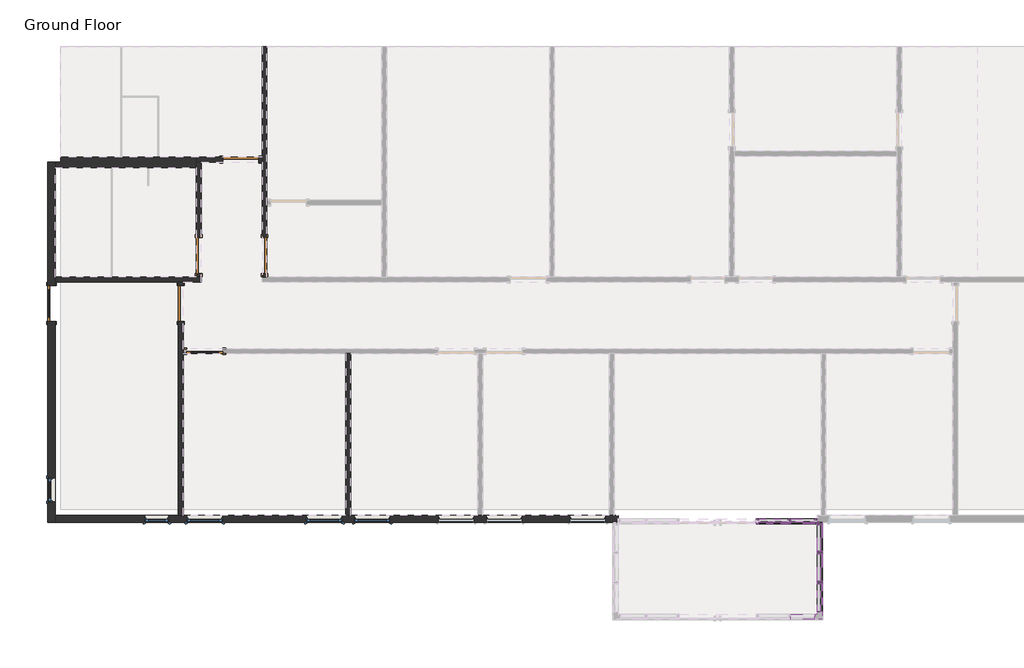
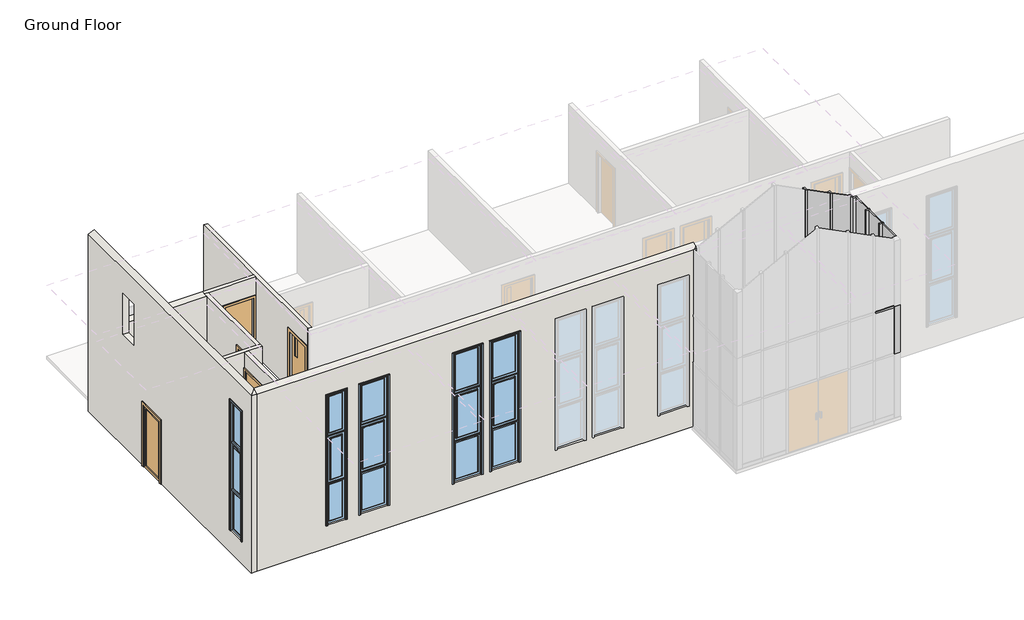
# One storey, part 2 of 3: 32 members, 15 plates, 9 walls, 6 doors, 5 windows.
"""IFC4 building model written with IfcOpenShell, lengths in millimetres."""

from ifc_helpers import new_model, si_unit, frame, origin, place, context, project, spatial, polyline, outline, extrude, faceted_brep, transform, mapped, element, save
from components import door_0f3f7c0c, door_43f271b1, door_8f6ecfa2, door_2a3d4b99, door_2264a989, door_30311ba1, member_07888544, member_4f1c84db, member_2ee2964b, member_c7c5a8a0, member_a43dcf29, member_eba58f5c, member_efd07658, member_b4c2ac5f, member_301edf08, member_3fbb5cd5, member_73a57e35, member_249e519d, member_cd2e279d, member_1aadb8e3, member_1526e78e, member_869738d0, member_f8dc38bf, member_798d6cad, member_3a7f528f, member_10cd6abd, member_1bc8ff6f, member_892852e1, member_0208a0fb, system_panel_0d1f19e3, system_panel_731fbf32, system_panel_system_panel_82d31de2, system_panel_system_panel_aed4df24, system_panel_system_panel_0f80bde9, system_panel_system_panel_0a04209b, system_panel_system_panel_237256c1, system_panel_system_panel_f8c05b70, system_panel_system_panel_3b0a3080, system_panel_system_panel_e46ad46d, system_panel_system_panel_25a6b319, system_panel_system_panel_5840f3b9, system_panel_system_panel_c9e3cbe4, system_panel_system_panel_14be3267, system_panel_system_panel_e406a2c2, window_8adb934c, window_fc414b9c

model = new_model("IFC4")

# Units and contexts
model_context = context("Model", 3, world=origin())
ifc_project = project(units=[si_unit("LENGTHUNIT", "METRE", prefix="MILLI")], contexts=[model_context])

# Site, building, storey
site = spatial("IfcSite", under=ifc_project)
building = spatial("IfcBuilding", under=site)
storey = spatial("IfcBuildingStorey", under=building, Name="Ground Floor", Elevation=39624.0)

# Doors
placement = place(None, origin())
door_shape = door_0f3f7c0c(model_context)
element("IfcDoor", 1, ObjectType="Single-Flush : 36\" x 80\"", at=placement, inside=storey, context=model_context, shape_type="MappedRepresentation", body=[
    mapped(door_shape, transform((-21988.4917336, -9250.4394844, 39624.0), x_axis=(0.0, -1.0, 0.0), y_axis=(1.0, 0.0, 0.0), z_axis=(0.0, 0.0, 1.0))),
])
door_2_shape = door_43f271b1(model_context)
element("IfcDoor", 2, ObjectType="Single-Flush : 36\" x 80\"", at=placement, inside=storey, context=model_context, shape_type="MappedRepresentation", body=[
    mapped(door_2_shape, transform((-20921.6917336, -6808.8644844, 39624.0), x_axis=(1.0, 0.0, 0.0), y_axis=(0.0, 1.0, 0.0), z_axis=(0.0, 0.0, 1.0))),
])
door_3_shape = door_8f6ecfa2(model_context)
element("IfcDoor", 3, ObjectType="Single-Flush Vision : 36\" x 80\"", at=placement, inside=storey, context=model_context, shape_type="MappedRepresentation", body=[
    mapped(door_3_shape, transform((-20312.0917336, -9250.4394844, 39624.0), x_axis=(0.0, -1.0, 0.0), y_axis=(1.0, 0.0, 0.0), z_axis=(0.0, 0.0, 1.0))),
])
door_4_shape = door_2a3d4b99(model_context)
element("IfcDoor", 4, ObjectType="Single-Flush Vision : 36\" x 84\"", at=placement, inside=storey, context=model_context, shape_type="MappedRepresentation", body=[
    mapped(door_4_shape, transform((-22445.6917336, -10469.6394844, 39624.0), x_axis=(0.0, 1.0, 0.0), y_axis=(-1.0, 0.0, 0.0), z_axis=(0.0, 0.0, 1.0))),
])
door_5_shape = door_2264a989(model_context)
element("IfcDoor", 5, ObjectType="Single-Glass 1 : 36\" x 84\"", at=placement, inside=storey, context=model_context, shape_type="MappedRepresentation", body=[
    mapped(door_5_shape, transform((-25736.5792336, -10469.6394844, 39624.0), x_axis=(0.0, 1.0, 0.0), y_axis=(-1.0, 0.0, 0.0), z_axis=(0.0, 0.0, 1.0))),
])
door_6_shape = door_30311ba1(model_context)
element("IfcDoor", 6, ObjectType="Single-Glass 1 : 36\" x 84\"", at=placement, inside=storey, context=model_context, shape_type="MappedRepresentation", body=[
    mapped(door_6_shape, transform((-21836.0917336, -11688.8394844, 39624.0), x_axis=(-1.0, 0.0, 0.0), y_axis=(0.0, -1.0, 0.0), z_axis=(0.0, 0.0, 1.0))),
])

# Members
member_shape = member_07888544(model_context)
element("IfcMember", 7, ObjectType="L Corner Mullion : 5\" x 5\" Corner", at=placement, inside=storey, context=model_context, shape_type="MappedRepresentation", body=[
    mapped(member_shape, transform((-6181.7542336, -18456.3519844, 43459.4), x_axis=(1.0, 0.0, 0.0), y_axis=(0.0, 1.0, 0.0), z_axis=(0.0, 0.0, 1.0))),
])
member_2_shape = member_4f1c84db(model_context)
element("IfcMember", 8, ObjectType="Rectangular Mullion : 2.5\" x 5\" rectangular", at=placement, inside=storey, context=model_context, shape_type="MappedRepresentation", body=[
    mapped(member_2_shape, transform((-6181.7542336, -16811.7019844, 39751.0), x_axis=(0.0, -1.0, 0.0), y_axis=(-1.0, 0.0, 0.0), z_axis=(0.0, 0.0, -1.0))),
])
element("IfcMember", 9, ObjectType="Rectangular Mullion : 2.5\" x 5\" rectangular", at=placement, inside=storey, context=model_context, shape_type="MappedRepresentation", body=[
    mapped(member_2_shape, transform((-6181.7542336, -17573.7019844, 39751.0), x_axis=(0.0, -1.0, 0.0), y_axis=(-1.0, 0.0, 0.0), z_axis=(0.0, 0.0, -1.0))),
])
member_3_shape = member_2ee2964b(model_context)
element("IfcMember", 10, ObjectType="Rectangular Mullion : 2.5\" x 5\" rectangular", at=placement, inside=storey, context=model_context, shape_type="MappedRepresentation", body=[
    mapped(member_3_shape, transform((-6181.7542336, -16779.9519844, 41821.1), x_axis=(0.0, 0.0, 1.0), y_axis=(-1.0, 0.0, 0.0), z_axis=(0.0, -1.0, 0.0))),
])
element("IfcMember", 11, ObjectType="Rectangular Mullion : 2.5\" x 5\" rectangular", at=placement, inside=storey, context=model_context, shape_type="MappedRepresentation", body=[
    mapped(member_3_shape, transform((-6181.7542336, -16779.9519844, 43459.4), x_axis=(0.0, 0.0, 1.0), y_axis=(-1.0, 0.0, 0.0), z_axis=(0.0, -1.0, 0.0))),
])
member_4_shape = member_c7c5a8a0(model_context)
element("IfcMember", 12, ObjectType="Rectangular Mullion : 2.5\" x 5\" rectangular", at=placement, inside=storey, context=model_context, shape_type="MappedRepresentation", body=[
    mapped(member_4_shape, transform((-6181.7542336, -17541.9519844, 41821.1), x_axis=(0.0, 0.0, 1.0), y_axis=(-1.0, 0.0, 0.0), z_axis=(0.0, -1.0, 0.0))),
])
element("IfcMember", 13, ObjectType="Rectangular Mullion : 2.5\" x 5\" rectangular", at=placement, inside=storey, context=model_context, shape_type="MappedRepresentation", body=[
    mapped(member_4_shape, transform((-6181.7542336, -17541.9519844, 43459.4), x_axis=(0.0, 0.0, 1.0), y_axis=(-1.0, 0.0, 0.0), z_axis=(0.0, -1.0, 0.0))),
])
member_5_shape = member_a43dcf29(model_context)
element("IfcMember", 14, ObjectType="Rectangular Mullion : 2.5\" x 5\" rectangular", at=placement, inside=storey, context=model_context, shape_type="MappedRepresentation", body=[
    mapped(member_5_shape, transform((-6181.7542336, -18329.3519844, 43459.4), x_axis=(0.0, 0.0, 1.0), y_axis=(-1.0, 0.0, 0.0), z_axis=(0.0, -1.0, 0.0))),
])
member_6_shape = member_eba58f5c(model_context)
element("IfcMember", 15, ObjectType="Rectangular Mullion : 2.5\" x 5\" rectangular", at=placement, inside=storey, context=model_context, shape_type="MappedRepresentation", body=[
    mapped(member_6_shape, transform((-6181.7542336, -16811.7019844, 41821.1), x_axis=(0.0, -1.0, 0.0), y_axis=(-1.0, 0.0, 0.0), z_axis=(0.0, 0.0, -1.0))),
])
element("IfcMember", 16, ObjectType="Rectangular Mullion : 2.5\" x 5\" rectangular", at=placement, inside=storey, context=model_context, shape_type="MappedRepresentation", body=[
    mapped(member_6_shape, transform((-6181.7542336, -17573.7019844, 41821.1), x_axis=(0.0, -1.0, 0.0), y_axis=(-1.0, 0.0, 0.0), z_axis=(0.0, 0.0, -1.0))),
])
member_7_shape = member_efd07658(model_context)
element("IfcMember", 17, ObjectType="Rectangular Mullion : 2.5\" x 5\" rectangular", at=placement, inside=storey, context=model_context, shape_type="MappedRepresentation", body=[
    mapped(member_7_shape, transform((-6181.7542336, -16811.7019844, 43459.4), x_axis=(0.0, -1.0, 0.0), y_axis=(-1.0, 0.0, 0.0), z_axis=(0.0, 0.0, -1.0))),
])
element("IfcMember", 18, ObjectType="Rectangular Mullion : 2.5\" x 5\" rectangular", at=placement, inside=storey, context=model_context, shape_type="MappedRepresentation", body=[
    mapped(member_7_shape, transform((-6181.7542336, -17573.7019844, 43459.4), x_axis=(0.0, -1.0, 0.0), y_axis=(-1.0, 0.0, 0.0), z_axis=(0.0, 0.0, -1.0))),
])
member_8_shape = member_b4c2ac5f(model_context)
element("IfcMember", 19, ObjectType="Rectangular Mullion : 2.5\" x 5\" rectangular", at=placement, inside=storey, context=model_context, shape_type="MappedRepresentation", body=[
    mapped(member_8_shape, transform((-6956.4542336, -16017.9519844, 43453.05), x_axis=(-1.0, 0.0, 0.0), y_axis=(0.0, 1.0, 0.0), z_axis=(0.0, 0.0, -1.0))),
])
member_9_shape = member_301edf08(model_context)
element("IfcMember", 20, ObjectType="Rectangular Mullion : 2.5\" x 5\" rectangular", at=placement, inside=storey, context=model_context, shape_type="MappedRepresentation", body=[
    mapped(member_9_shape, transform((-7769.2542336, -16017.9519844, 43453.05), x_axis=(-1.0, 0.0, 0.0), y_axis=(0.0, 1.0, 0.0), z_axis=(0.0, 0.0, -1.0))),
])
member_10_shape = member_3fbb5cd5(model_context)
element("IfcMember", 21, ObjectType="Rectangular Mullion : 2.5\" x 5\" rectangular", at=placement, inside=storey, context=model_context, shape_type="MappedRepresentation", body=[
    mapped(member_10_shape, transform((-6245.2542336, -16017.9519844, 45751.75), x_axis=(1.0, 0.0, 0.0), y_axis=(0.0, 1.0, 0.0), z_axis=(0.0, 0.0, 1.0))),
])
member_11_shape = member_73a57e35(model_context)
element("IfcMember", 22, ObjectType="Rectangular Mullion : 2.5\" x 5\" rectangular", at=placement, inside=storey, context=model_context, shape_type="MappedRepresentation", body=[
    mapped(member_11_shape, transform((-6245.2542336, -16017.9519844, 41821.1), x_axis=(1.0, 0.0, 0.0), y_axis=(0.0, 1.0, 0.0), z_axis=(0.0, 0.0, 1.0))),
])
element("IfcMember", 23, ObjectType="Rectangular Mullion : 2.5\" x 5\" rectangular", at=placement, inside=storey, context=model_context, shape_type="MappedRepresentation", body=[
    mapped(member_11_shape, transform((-6181.7542336, -16049.7019844, 41821.1), x_axis=(0.0, 1.0, 0.0), y_axis=(-1.0, 0.0, 0.0), z_axis=(0.0, 0.0, 1.0))),
])
member_12_shape = member_249e519d(model_context)
element("IfcMember", 24, ObjectType="Rectangular Mullion : 2.5\" x 5\" rectangular", at=placement, inside=storey, context=model_context, shape_type="MappedRepresentation", body=[
    mapped(member_12_shape, transform((-6245.2542336, -16017.9519844, 43453.05), x_axis=(1.0, 0.0, 0.0), y_axis=(0.0, 1.0, 0.0), z_axis=(0.0, 0.0, 1.0))),
])
member_13_shape = member_cd2e279d(model_context)
element("IfcMember", 25, ObjectType="Rectangular Mullion : 2.5\" x 5\" rectangular", at=placement, inside=storey, context=model_context, shape_type="MappedRepresentation", body=[
    mapped(member_13_shape, transform((-6181.7542336, -16049.7019844, 45720.0), x_axis=(0.0, 1.0, 0.0), y_axis=(-1.0, 0.0, 0.0), z_axis=(0.0, 0.0, 1.0))),
])
member_14_shape = member_1aadb8e3(model_context)
element("IfcMember", 26, ObjectType="Rectangular Mullion : 2.5\" x 5\" rectangular", at=placement, inside=storey, context=model_context, shape_type="MappedRepresentation", body=[
    mapped(member_14_shape, transform((-6181.7542336, -16049.7019844, 43459.4), x_axis=(0.0, 1.0, 0.0), y_axis=(-1.0, 0.0, 0.0), z_axis=(0.0, 0.0, 1.0))),
])
member_15_shape = member_1526e78e(model_context)
element("IfcMember", 27, ObjectType="Rectangular Mullion : 2.5\" x 5\" rectangular", at=placement, inside=storey, context=model_context, shape_type="MappedRepresentation", body=[
    mapped(member_15_shape, transform((-7769.2542336, -16017.9519844, 39624.0), x_axis=(-1.0, 0.0, 0.0), y_axis=(0.0, 1.0, 0.0), z_axis=(0.0, 0.0, -1.0))),
])
element("IfcMember", 28, ObjectType="Rectangular Mullion : 2.5\" x 5\" rectangular", at=placement, inside=storey, context=model_context, shape_type="MappedRepresentation", body=[
    mapped(member_15_shape, transform((-6956.4542336, -16017.9519844, 39624.0), x_axis=(-1.0, 0.0, 0.0), y_axis=(0.0, 1.0, 0.0), z_axis=(0.0, 0.0, -1.0))),
])
member_16_shape = member_869738d0(model_context)
element("IfcMember", 29, ObjectType="Rectangular Mullion : 2.5\" x 5\" rectangular", at=placement, inside=storey, context=model_context, shape_type="MappedRepresentation", body=[
    mapped(member_16_shape, transform((-7769.2542336, -16017.9519844, 41821.1), x_axis=(-1.0, 0.0, 0.0), y_axis=(0.0, 1.0, 0.0), z_axis=(0.0, 0.0, -1.0))),
])
element("IfcMember", 30, ObjectType="Rectangular Mullion : 2.5\" x 5\" rectangular", at=placement, inside=storey, context=model_context, shape_type="MappedRepresentation", body=[
    mapped(member_16_shape, transform((-6956.4542336, -16017.9519844, 41821.1), x_axis=(-1.0, 0.0, 0.0), y_axis=(0.0, 1.0, 0.0), z_axis=(0.0, 0.0, -1.0))),
])
member_17_shape = member_f8dc38bf(model_context)
element("IfcMember", 31, ObjectType="Rectangular Mullion : 2.5\" x 5\" rectangular", at=placement, inside=storey, context=model_context, shape_type="MappedRepresentation", body=[
    mapped(member_17_shape, transform((-6924.7042336, -16017.9519844, 41821.1), x_axis=(0.0, 0.0, 1.0), y_axis=(0.0, 1.0, 0.0), z_axis=(-1.0, 0.0, 0.0))),
])
element("IfcMember", 32, ObjectType="Rectangular Mullion : 2.5\" x 5\" rectangular", at=placement, inside=storey, context=model_context, shape_type="MappedRepresentation", body=[
    mapped(member_17_shape, transform((-6924.7042336, -18456.3519844, 43459.4), x_axis=(0.0, 0.0, 1.0), y_axis=(0.0, 1.0, 0.0), z_axis=(-1.0, 0.0, 0.0))),
])
member_18_shape = member_798d6cad(model_context)
element("IfcMember", 33, ObjectType="Rectangular Mullion : 2.5\" x 5\" rectangular", at=placement, inside=storey, context=model_context, shape_type="MappedRepresentation", body=[
    mapped(member_18_shape, transform((-7737.5042336, -16017.9519844, 41821.1), x_axis=(0.0, 0.0, 1.0), y_axis=(0.0, 1.0, 0.0), z_axis=(-1.0, 0.0, 0.0))),
])
member_19_shape = member_3a7f528f(model_context)
element("IfcMember", 34, ObjectType="Rectangular Mullion : 5\" x 5\" Rectangular", at=placement, inside=storey, context=model_context, shape_type="MappedRepresentation", body=[
    mapped(member_19_shape, transform((-6988.2042336, -16017.9519844, 39624.0), x_axis=(0.0, 0.0, -1.0), y_axis=(0.0, 1.0, 0.0), z_axis=(1.0, 0.0, 0.0))),
])
member_20_shape = member_10cd6abd(model_context)
element("IfcMember", 35, ObjectType="Rectangular Mullion : 5\" x 5\" Rectangular", at=placement, inside=storey, context=model_context, shape_type="MappedRepresentation", body=[
    mapped(member_20_shape, transform((-6308.7542336, -16017.9519844, 39624.0), x_axis=(0.0, 0.0, -1.0), y_axis=(0.0, 1.0, 0.0), z_axis=(1.0, 0.0, 0.0))),
])
member_21_shape = member_1bc8ff6f(model_context)
element("IfcMember", 36, ObjectType="Rectangular Mullion : 5\" x 5\" Rectangular", at=placement, inside=storey, context=model_context, shape_type="MappedRepresentation", body=[
    mapped(member_21_shape, transform((-6181.7542336, -16113.2019844, 39624.0), x_axis=(0.0, 0.0, -1.0), y_axis=(-1.0, 0.0, 0.0), z_axis=(0.0, 1.0, 0.0))),
])
member_22_shape = member_892852e1(model_context)
element("IfcMember", 37, ObjectType="Rectangular Mullion : 5\" x 5\" Rectangular", at=placement, inside=storey, context=model_context, shape_type="MappedRepresentation", body=[
    mapped(member_22_shape, transform((-6181.7542336, -16811.7019844, 39624.0), x_axis=(0.0, 0.0, -1.0), y_axis=(-1.0, 0.0, 0.0), z_axis=(0.0, 1.0, 0.0))),
])
member_23_shape = member_0208a0fb(model_context)
element("IfcMember", 38, ObjectType="Rectangular Mullion : 5\" x 5\" Rectangular", at=placement, inside=storey, context=model_context, shape_type="MappedRepresentation", body=[
    mapped(member_23_shape, transform((-6181.7542336, -17573.7019844, 39624.0), x_axis=(0.0, 0.0, -1.0), y_axis=(-1.0, 0.0, 0.0), z_axis=(0.0, 1.0, 0.0))),
])

# Plates
system_panel_shape = system_panel_0d1f19e3(model_context)
element("IfcPlate", 39, ObjectType="System Panel : Spandral Panel", at=placement, inside=storey, context=model_context, shape_type="MappedRepresentation", body=[
    mapped(system_panel_shape, transform((-6616.7292336, -16017.9519844, 41852.85), x_axis=(-1.0, 0.0, 0.0), y_axis=(0.0, -1.0, 0.0), z_axis=(0.0, 0.0, 1.0))),
])
system_panel_2_shape = system_panel_731fbf32(model_context)
element("IfcPlate", 40, ObjectType="System Panel : Spandral Panel", at=placement, inside=storey, context=model_context, shape_type="MappedRepresentation", body=[
    mapped(system_panel_2_shape, transform((-7362.8542336, -16017.9519844, 41852.85), x_axis=(-1.0, 0.0, 0.0), y_axis=(0.0, -1.0, 0.0), z_axis=(0.0, 0.0, 1.0))),
])
system_panel_system_panel_shape = system_panel_system_panel_82d31de2(model_context)
element("IfcPlate", 41, ObjectType="System Panel : System Panel", at=placement, inside=storey, context=model_context, shape_type="MappedRepresentation", body=[
    mapped(system_panel_system_panel_shape, transform((-6181.7542336, -16446.5769844, 39751.0), x_axis=(0.0, -1.0, 0.0), y_axis=(1.0, 0.0, 0.0), z_axis=(0.0, 0.0, 1.0))),
])
system_panel_system_panel_2_shape = system_panel_system_panel_aed4df24(model_context)
element("IfcPlate", 42, ObjectType="System Panel : System Panel", at=placement, inside=storey, context=model_context, shape_type="MappedRepresentation", body=[
    mapped(system_panel_system_panel_2_shape, transform((-6181.7542336, -17192.7019844, 39751.0), x_axis=(0.0, -1.0, 0.0), y_axis=(1.0, 0.0, 0.0), z_axis=(0.0, 0.0, 1.0))),
])
system_panel_system_panel_3_shape = system_panel_system_panel_0f80bde9(model_context)
element("IfcPlate", 43, ObjectType="System Panel : System Panel", at=placement, inside=storey, context=model_context, shape_type="MappedRepresentation", body=[
    mapped(system_panel_system_panel_3_shape, transform((-6181.7542336, -17967.4019844, 39751.0), x_axis=(0.0, -1.0, 0.0), y_axis=(1.0, 0.0, 0.0), z_axis=(0.0, 0.0, 1.0))),
])
system_panel_system_panel_4_shape = system_panel_system_panel_0a04209b(model_context)
element("IfcPlate", 44, ObjectType="System Panel : System Panel", at=placement, inside=storey, context=model_context, shape_type="MappedRepresentation", body=[
    mapped(system_panel_system_panel_4_shape, transform((-6181.7542336, -16446.5769844, 41852.85), x_axis=(0.0, -1.0, 0.0), y_axis=(1.0, 0.0, 0.0), z_axis=(0.0, 0.0, 1.0))),
])
system_panel_system_panel_5_shape = system_panel_system_panel_237256c1(model_context)
element("IfcPlate", 45, ObjectType="System Panel : System Panel", at=placement, inside=storey, context=model_context, shape_type="MappedRepresentation", body=[
    mapped(system_panel_system_panel_5_shape, transform((-6181.7542336, -16446.5769844, 43491.15), x_axis=(0.0, -1.0, 0.0), y_axis=(1.0, 0.0, 0.0), z_axis=(0.0, 0.0, 1.0))),
])
system_panel_system_panel_6_shape = system_panel_system_panel_f8c05b70(model_context)
element("IfcPlate", 46, ObjectType="System Panel : System Panel", at=placement, inside=storey, context=model_context, shape_type="MappedRepresentation", body=[
    mapped(system_panel_system_panel_6_shape, transform((-6181.7542336, -17192.7019844, 41852.85), x_axis=(0.0, -1.0, 0.0), y_axis=(1.0, 0.0, 0.0), z_axis=(0.0, 0.0, 1.0))),
])
system_panel_system_panel_7_shape = system_panel_system_panel_3b0a3080(model_context)
element("IfcPlate", 47, ObjectType="System Panel : System Panel", at=placement, inside=storey, context=model_context, shape_type="MappedRepresentation", body=[
    mapped(system_panel_system_panel_7_shape, transform((-6181.7542336, -17192.7019844, 43491.15), x_axis=(0.0, -1.0, 0.0), y_axis=(1.0, 0.0, 0.0), z_axis=(0.0, 0.0, 1.0))),
])
system_panel_system_panel_8_shape = system_panel_system_panel_e46ad46d(model_context)
element("IfcPlate", 48, ObjectType="System Panel : System Panel", at=placement, inside=storey, context=model_context, shape_type="MappedRepresentation", body=[
    mapped(system_panel_system_panel_8_shape, transform((-6181.7542336, -17967.4019844, 41852.85), x_axis=(0.0, -1.0, 0.0), y_axis=(1.0, 0.0, 0.0), z_axis=(0.0, 0.0, 1.0))),
])
system_panel_system_panel_9_shape = system_panel_system_panel_25a6b319(model_context)
element("IfcPlate", 49, ObjectType="System Panel : System Panel", at=placement, inside=storey, context=model_context, shape_type="MappedRepresentation", body=[
    mapped(system_panel_system_panel_9_shape, transform((-6181.7542336, -17967.4019844, 43491.15), x_axis=(0.0, -1.0, 0.0), y_axis=(1.0, 0.0, 0.0), z_axis=(0.0, 0.0, 1.0))),
])
system_panel_system_panel_10_shape = system_panel_system_panel_5840f3b9(model_context)
element("IfcPlate", 50, ObjectType="System Panel : System Panel", at=placement, inside=storey, context=model_context, shape_type="MappedRepresentation", body=[
    mapped(system_panel_system_panel_10_shape, transform((-7346.9792336, -16017.9519844, 43453.05), x_axis=(-1.0, 0.0, 0.0), y_axis=(0.0, -1.0, 0.0), z_axis=(0.0, 0.0, 1.0))),
])
system_panel_system_panel_11_shape = system_panel_system_panel_c9e3cbe4(model_context)
element("IfcPlate", 51, ObjectType="System Panel : System Panel", at=placement, inside=storey, context=model_context, shape_type="MappedRepresentation", body=[
    mapped(system_panel_system_panel_11_shape, transform((-6616.7292336, -16017.9519844, 43453.05), x_axis=(-1.0, 0.0, 0.0), y_axis=(0.0, -1.0, 0.0), z_axis=(0.0, 0.0, 1.0))),
])
system_panel_system_panel_12_shape = system_panel_system_panel_14be3267(model_context)
element("IfcPlate", 52, ObjectType="System Panel : System Panel", at=placement, inside=storey, context=model_context, shape_type="MappedRepresentation", body=[
    mapped(system_panel_system_panel_12_shape, transform((-6616.7292336, -16017.9519844, 39751.0), x_axis=(-1.0, 0.0, 0.0), y_axis=(0.0, -1.0, 0.0), z_axis=(0.0, 0.0, 1.0))),
])
system_panel_system_panel_13_shape = system_panel_system_panel_e406a2c2(model_context)
element("IfcPlate", 53, ObjectType="System Panel : System Panel", at=placement, inside=storey, context=model_context, shape_type="MappedRepresentation", body=[
    mapped(system_panel_system_panel_13_shape, transform((-7362.8542336, -16017.9519844, 39751.0), x_axis=(-1.0, 0.0, 0.0), y_axis=(0.0, -1.0, 0.0), z_axis=(0.0, 0.0, 1.0))),
])

# Walls
element("IfcWall", 54, ObjectType="Exterior - Siding", at=placement, inside=storey, context=model_context, shape_type="Brep", body=[
    faceted_brep([(-25642.9167336, -16049.7019844, 45720.0), (-25642.9167336, -16049.7019844, 39624.0), (-25642.9167336, -15862.3769844, 39624.0), (-25642.9167336, -10926.8394844, 39624.0), (-25642.9167336, -10926.8394844, 41757.6), (-25642.9167336, -10012.4394844, 41757.6), (-25642.9167336, -10012.4394844, 39624.0), (-25642.9167336, -9921.9519844, 39624.0), (-25642.9167336, -9798.1269844, 39624.0), (-25642.9167336, -7007.3019844, 39624.0), (-25642.9167336, -6877.1269844, 39624.0), (-25642.9167336, -6877.1269844, 42348.15), (-25642.9167336, -7007.3019844, 42348.15), (-25642.9167336, -9798.1269844, 42348.15), (-25642.9167336, -9921.9519844, 42348.15), (-25642.9167336, -12230.1769844, 42348.15), (-25642.9167336, -12230.1769844, 42672.0), (-25642.9167336, -9921.9519844, 42672.0), (-25642.9167336, -9798.1269844, 42672.0), (-25642.9167336, -7007.3019844, 42672.0), (-25642.9167336, -6877.1269844, 42672.0), (-25642.9167336, -6877.1269844, 45813.6625), (-25642.9167336, -15862.3769844, 45813.6625), (-25642.9167336, -14911.4644844, 44869.1), (-25642.9167336, -14911.4644844, 40405.05), (-25642.9167336, -15521.0644844, 40405.05), (-25642.9167336, -15521.0644844, 44869.1), (-25642.9167336, -8815.4644844, 44869.1), (-25642.9167336, -8815.4644844, 43453.05), (-25642.9167336, -9425.0644844, 43453.05), (-25642.9167336, -9425.0644844, 44869.1), (-25830.2417336, -16049.7019844, 45720.0), (-25830.2417336, -6877.1269844, 45720.0), (-25830.2417336, -6877.1269844, 42672.0), (-25830.2417336, -6877.1269844, 39624.0), (-25830.2417336, -10012.4394844, 39624.0), (-25830.2417336, -10012.4394844, 41757.6), (-25830.2417336, -10926.8394844, 41757.6), (-25830.2417336, -10926.8394844, 39624.0), (-25830.2417336, -16049.7019844, 39624.0), (-25830.2417336, -14911.4644844, 40405.05), (-25830.2417336, -14911.4644844, 44869.1), (-25830.2417336, -15521.0644844, 44869.1), (-25830.2417336, -15521.0644844, 40405.05), (-25830.2417336, -8815.4644844, 43453.05), (-25830.2417336, -8815.4644844, 44869.1), (-25830.2417336, -9425.0644844, 44869.1), (-25830.2417336, -9425.0644844, 43453.05), (-25798.4917336, -6877.1269844, 42672.0), (-25798.4917336, -6877.1269844, 42348.15), (-25798.4917336, -12230.1769844, 42348.15), (-25798.4917336, -12230.1769844, 42672.0)], [[[0, 1, 2, 3, 4, 5, 6, 7, 8, 9, 10, 11, 12, 13, 14, 15, 16, 17, 18, 19, 20, 21, 22], [23, 24, 25, 26], [27, 28, 29, 30]], [[31, 32, 33, 34, 35, 36, 37, 38, 39], [40, 41, 42, 43], [44, 45, 46, 47]], [[34, 10, 9, 8, 7, 6, 35]], [[1, 39, 38, 3, 2]], [[1, 0, 31, 39]], [[24, 23, 41, 40]], [[25, 24, 40, 43]], [[26, 25, 43, 42]], [[23, 26, 42, 41]], [[36, 35, 6, 5]], [[37, 36, 5, 4]], [[38, 37, 4, 3]], [[28, 27, 45, 44]], [[29, 28, 44, 47]], [[30, 29, 47, 46]], [[27, 30, 46, 45]], [[10, 34, 33, 32, 21, 20, 48, 49, 11]], [[31, 0, 22]], [[32, 31, 22, 21]], [[49, 50, 15, 14, 13, 12, 11]], [[51, 48, 20, 19, 18, 17, 16]], [[50, 51, 16, 15]], [[50, 49, 48, 51]]]),
])
element("IfcWall", 55, ObjectType="Exterior - Siding", at=placement, inside=storey, context=model_context, shape_type="Brep", body=[
    faceted_brep([(-11315.7292336, -15862.3769844, 39624.0), (-11410.9792336, -15862.3769844, 39624.0), (-11534.8042336, -15862.3769844, 39624.0), (-14763.7792336, -15862.3769844, 39624.0), (-14887.6042336, -15862.3769844, 39624.0), (-18116.5792336, -15862.3769844, 39624.0), (-18240.4042336, -15862.3769844, 39624.0), (-22383.7792336, -15862.3769844, 39624.0), (-22507.6042336, -15862.3769844, 39624.0), (-25642.9167336, -15862.3769844, 39624.0), (-25642.9167336, -15862.3769844, 45813.6625), (-11315.7292336, -15862.3769844, 45813.6625), (-11315.7292336, -15862.3769844, 42672.0), (-11410.9792336, -15862.3769844, 42672.0), (-11534.8042336, -15862.3769844, 42672.0), (-11625.2917336, -15862.3769844, 42672.0), (-11625.2917336, -15862.3769844, 44869.1), (-12539.6917336, -15862.3769844, 44869.1), (-12539.6917336, -15862.3769844, 42672.0), (-13758.8917336, -15862.3769844, 42672.0), (-13758.8917336, -15862.3769844, 44869.1), (-14673.2917336, -15862.3769844, 44869.1), (-14673.2917336, -15862.3769844, 42672.0), (-14695.5167336, -15862.3769844, 42672.0), (-14955.8667336, -15862.3769844, 42672.0), (-14978.0917336, -15862.3769844, 42672.0), (-14978.0917336, -15862.3769844, 44869.1), (-15892.4917336, -15862.3769844, 44869.1), (-15892.4917336, -15862.3769844, 42672.0), (-17111.6917336, -15862.3769844, 42672.0), (-17111.6917336, -15862.3769844, 44869.1), (-18026.0917336, -15862.3769844, 44869.1), (-18026.0917336, -15862.3769844, 42672.0), (-18330.8917336, -15862.3769844, 42672.0), (-18330.8917336, -15862.3769844, 44869.1), (-19245.2917336, -15862.3769844, 44869.1), (-19245.2917336, -15862.3769844, 42672.0), (-21378.8917336, -15862.3769844, 42672.0), (-21378.8917336, -15862.3769844, 44869.1), (-22293.2917336, -15862.3769844, 44869.1), (-22293.2917336, -15862.3769844, 42672.0), (-22383.7792336, -15862.3769844, 42672.0), (-22507.6042336, -15862.3769844, 42672.0), (-22507.6042336, -15862.3769844, 42348.15), (-22383.7792336, -15862.3769844, 42348.15), (-22293.2917336, -15862.3769844, 42348.15), (-22293.2917336, -15862.3769844, 40405.05), (-21378.8917336, -15862.3769844, 40405.05), (-21378.8917336, -15862.3769844, 42348.15), (-19245.2917336, -15862.3769844, 42348.15), (-19245.2917336, -15862.3769844, 40405.05), (-18330.8917336, -15862.3769844, 40405.05), (-18330.8917336, -15862.3769844, 42348.15), (-18240.4042336, -15862.3769844, 42348.15), (-18116.5792336, -15862.3769844, 42348.15), (-18026.0917336, -15862.3769844, 42348.15), (-18026.0917336, -15862.3769844, 40405.05), (-17111.6917336, -15862.3769844, 40405.05), (-17111.6917336, -15862.3769844, 42348.15), (-15892.4917336, -15862.3769844, 42348.15), (-15892.4917336, -15862.3769844, 40405.05), (-14978.0917336, -15862.3769844, 40405.05), (-14978.0917336, -15862.3769844, 42348.15), (-14887.6042336, -15862.3769844, 42348.15), (-14763.7792336, -15862.3769844, 42348.15), (-14673.2917336, -15862.3769844, 42348.15), (-14673.2917336, -15862.3769844, 40405.05), (-13758.8917336, -15862.3769844, 40405.05), (-13758.8917336, -15862.3769844, 42348.15), (-12539.6917336, -15862.3769844, 42348.15), (-12539.6917336, -15862.3769844, 40405.05), (-11625.2917336, -15862.3769844, 40405.05), (-11625.2917336, -15862.3769844, 42348.15), (-11534.8042336, -15862.3769844, 42348.15), (-11410.9792336, -15862.3769844, 42348.15), (-11315.7292336, -15862.3769844, 42348.15), (-22750.4917336, -15862.3769844, 44869.1), (-23360.0917336, -15862.3769844, 44869.1), (-23360.0917336, -15862.3769844, 40405.05), (-22750.4917336, -15862.3769844, 40405.05), (-25642.9167336, -16049.7019844, 39624.0), (-11315.7292336, -16049.7019844, 39624.0), (-11315.7292336, -16049.7019844, 45751.75), (-11379.2292336, -16049.7019844, 45720.0), (-25642.9167336, -16049.7019844, 45720.0), (-23360.0917336, -16049.7019844, 44869.1), (-22750.4917336, -16049.7019844, 44869.1), (-22750.4917336, -16049.7019844, 40405.05), (-23360.0917336, -16049.7019844, 40405.05), (-22293.2917336, -16049.7019844, 44869.1), (-21378.8917336, -16049.7019844, 44869.1), (-21378.8917336, -16049.7019844, 40405.05), (-22293.2917336, -16049.7019844, 40405.05), (-19245.2917336, -16049.7019844, 44869.1), (-18330.8917336, -16049.7019844, 44869.1), (-18330.8917336, -16049.7019844, 40405.05), (-19245.2917336, -16049.7019844, 40405.05), (-15892.4917336, -16049.7019844, 44869.1), (-14978.0917336, -16049.7019844, 44869.1), (-14978.0917336, -16049.7019844, 40405.05), (-15892.4917336, -16049.7019844, 40405.05), (-12539.6917336, -16049.7019844, 44869.1), (-11625.2917336, -16049.7019844, 44869.1), (-11625.2917336, -16049.7019844, 40405.05), (-12539.6917336, -16049.7019844, 40405.05), (-18026.0917336, -16049.7019844, 44869.1), (-17111.6917336, -16049.7019844, 44869.1), (-17111.6917336, -16049.7019844, 40405.05), (-18026.0917336, -16049.7019844, 40405.05), (-14673.2917336, -16049.7019844, 44869.1), (-13758.8917336, -16049.7019844, 44869.1), (-13758.8917336, -16049.7019844, 40405.05), (-14673.2917336, -16049.7019844, 40405.05), (-11315.7292336, -16017.9519844, 42348.15), (-11315.7292336, -16017.9519844, 42672.0), (-11315.7292336, -15986.2019844, 45751.75), (-21378.8917336, -16017.9519844, 42672.0), (-21378.8917336, -16017.9519844, 42348.15), (-22293.2917336, -16017.9519844, 42348.15), (-22293.2917336, -16017.9519844, 42672.0), (-18330.8917336, -16017.9519844, 42672.0), (-18330.8917336, -16017.9519844, 42348.15), (-19245.2917336, -16017.9519844, 42348.15), (-19245.2917336, -16017.9519844, 42672.0), (-14978.0917336, -16017.9519844, 42672.0), (-14978.0917336, -16017.9519844, 42348.15), (-15892.4917336, -16017.9519844, 42348.15), (-15892.4917336, -16017.9519844, 42672.0), (-11625.2917336, -16017.9519844, 42672.0), (-11625.2917336, -16017.9519844, 42348.15), (-12539.6917336, -16017.9519844, 42348.15), (-12539.6917336, -16017.9519844, 42672.0), (-17111.6917336, -16017.9519844, 42672.0), (-17111.6917336, -16017.9519844, 42348.15), (-18026.0917336, -16017.9519844, 42348.15), (-18026.0917336, -16017.9519844, 42672.0), (-13758.8917336, -16017.9519844, 42672.0), (-13758.8917336, -16017.9519844, 42348.15), (-14673.2917336, -16017.9519844, 42348.15), (-14673.2917336, -16017.9519844, 42672.0), (-22507.6042336, -16017.9519844, 42348.15), (-22507.6042336, -16017.9519844, 42672.0)], [[[0, 1, 2, 3, 4, 5, 6, 7, 8, 9, 10, 11, 12, 13, 14, 15, 16, 17, 18, 19, 20, 21, 22, 23, 24, 25, 26, 27, 28, 29, 30, 31, 32, 33, 34, 35, 36, 37, 38, 39, 40, 41, 42, 43, 44, 45, 46, 47, 48, 49, 50, 51, 52, 53, 54, 55, 56, 57, 58, 59, 60, 61, 62, 63, 64, 65, 66, 67, 68, 69, 70, 71, 72, 73, 74, 75], [76, 77, 78, 79]], [[80, 81, 82, 83, 84], [85, 86, 87, 88], [89, 90, 91, 92], [93, 94, 95, 96], [97, 98, 99, 100], [101, 102, 103, 104], [105, 106, 107, 108], [109, 110, 111, 112]], [[9, 8, 7, 6, 5, 4, 3, 2, 1, 0, 81, 80]], [[82, 81, 0, 75, 113, 114, 12, 11, 115]], [[10, 9, 80, 84]], [[77, 76, 86, 85]], [[76, 79, 87, 86]], [[79, 78, 88, 87]], [[78, 77, 85, 88]], [[39, 38, 90, 89]], [[91, 90, 38, 37, 116, 117, 48, 47]], [[47, 46, 92, 91]], [[89, 92, 46, 45, 118, 119, 40, 39]], [[35, 34, 94, 93]], [[95, 94, 34, 33, 120, 121, 52, 51]], [[51, 50, 96, 95]], [[93, 96, 50, 49, 122, 123, 36, 35]], [[27, 26, 98, 97]], [[99, 98, 26, 25, 124, 125, 62, 61]], [[61, 60, 100, 99]], [[97, 100, 60, 59, 126, 127, 28, 27]], [[17, 16, 102, 101]], [[103, 102, 16, 15, 128, 129, 72, 71]], [[71, 70, 104, 103]], [[101, 104, 70, 69, 130, 131, 18, 17]], [[31, 30, 106, 105]], [[107, 106, 30, 29, 132, 133, 58, 57]], [[57, 56, 108, 107]], [[105, 108, 56, 55, 134, 135, 32, 31]], [[21, 20, 110, 109]], [[111, 110, 20, 19, 136, 137, 68, 67]], [[67, 66, 112, 111]], [[109, 112, 66, 65, 138, 139, 22, 21]], [[11, 10, 84, 83, 115]], [[83, 82, 115]], [[43, 140, 118, 45, 44]], [[117, 122, 49, 48]], [[129, 113, 75, 74, 73, 72]], [[133, 126, 59, 58]], [[121, 134, 55, 54, 53, 52]], [[137, 130, 69, 68]], [[125, 138, 65, 64, 63, 62]], [[119, 141, 42, 41, 40]], [[123, 116, 37, 36]], [[114, 128, 15, 14, 13, 12]], [[127, 132, 29, 28]], [[135, 120, 33, 32]], [[131, 136, 19, 18]], [[139, 124, 25, 24, 23, 22]], [[140, 141, 119, 118]], [[122, 117, 116, 123]], [[113, 129, 128, 114]], [[126, 133, 132, 127]], [[134, 121, 120, 135]], [[130, 137, 136, 131]], [[138, 125, 124, 139]], [[141, 140, 43, 42]]]),
])
element("IfcWall", 56, ObjectType="Interior - 4 7/8\" Partition (1-hr)", at=placement, inside=storey, context=model_context, shape_type="Brep", body=[
    faceted_brep([(-25642.9167336, -9921.9519844, 39624.0), (-22507.6042336, -9921.9519844, 39624.0), (-22383.7792336, -9921.9519844, 39624.0), (-21926.5792336, -9921.9519844, 39624.0), (-21926.5792336, -9921.9519844, 42348.15), (-22383.7792336, -9921.9519844, 42348.15), (-22507.6042336, -9921.9519844, 42348.15), (-25642.9167336, -9921.9519844, 42348.15), (-25642.9167336, -9798.1269844, 39624.0), (-25642.9167336, -9798.1269844, 42348.15), (-22050.4042336, -9798.1269844, 42348.15), (-21926.5792336, -9798.1269844, 42348.15), (-21926.5792336, -9798.1269844, 39624.0), (-22050.4042336, -9798.1269844, 39624.0)], [[[0, 1, 2, 3, 4, 5, 6, 7]], [[8, 9, 10, 11, 12, 13]], [[3, 2, 1, 0, 8, 13, 12]], [[0, 7, 9, 8]], [[4, 3, 12, 11]], [[7, 6, 5, 4, 11, 10, 9]]]),
])
element("IfcWall", 57, ObjectType="Interior - 4 7/8\" Partition (1-hr)", at=placement, inside=storey, context=model_context, shape_type="Brep", body=[
    faceted_brep([(-22383.7792336, -10012.4394844, 41757.6), (-22383.7792336, -10012.4394844, 39624.0), (-22383.7792336, -9921.9519844, 39624.0), (-22383.7792336, -9921.9519844, 42348.15), (-22383.7792336, -11626.9269844, 42348.15), (-22383.7792336, -11750.7519844, 42348.15), (-22383.7792336, -15862.3769844, 42348.15), (-22383.7792336, -15862.3769844, 39624.0), (-22383.7792336, -11750.7519844, 39624.0), (-22383.7792336, -11626.9269844, 39624.0), (-22383.7792336, -10926.8394844, 39624.0), (-22383.7792336, -10926.8394844, 41757.6), (-22507.6042336, -9921.9519844, 39624.0), (-22507.6042336, -10012.4394844, 39624.0), (-22507.6042336, -10012.4394844, 41757.6), (-22507.6042336, -10926.8394844, 41757.6), (-22507.6042336, -10926.8394844, 39624.0), (-22507.6042336, -15862.3769844, 39624.0), (-22507.6042336, -15862.3769844, 42348.15), (-22507.6042336, -12230.1769844, 42348.15), (-22507.6042336, -9921.9519844, 42348.15)], [[[0, 1, 2, 3, 4, 5, 6, 7, 8, 9, 10, 11]], [[12, 13, 14, 15, 16, 17, 18, 19, 20]], [[2, 1, 13, 12]], [[10, 9, 8, 7, 17, 16]], [[7, 6, 18, 17]], [[3, 2, 12, 20]], [[6, 5, 4, 3, 20, 19, 18]], [[14, 13, 1, 0]], [[15, 14, 0, 11]], [[16, 15, 11, 10]]]),
])
element("IfcWall", 58, ObjectType="Interior - 4 7/8\" Partition (1-hr)", at=placement, inside=storey, context=model_context, shape_type="SweptSolid", body=[
    extrude(outline(polyline([(-18116.5792336, -11750.7519844), (-18116.5792336, -15862.3769844), (-18240.4042336, -15862.3769844), (-18240.4042336, -11750.7519844), (-18116.5792336, -11750.7519844)])), frame((0.0, 0.0, 39624.0), z_axis=(0.0, 0.0, 1.0), x_axis=(1.0, 0.0, 0.0)), (0.0, 0.0, 1.0), 2724.15),
])
element("IfcWall", 59, ObjectType="Interior - 4 7/8\" Partition (1-hr)", at=placement, inside=storey, context=model_context, shape_type="Brep", body=[
    faceted_brep([(-20374.0042336, -9707.6394844, 41656.0), (-20374.0042336, -9707.6394844, 39624.0), (-20374.0042336, -9798.1269844, 39624.0), (-20374.0042336, -9798.1269844, 42348.15), (-20374.0042336, -6870.7769844, 42348.15), (-20374.0042336, -6746.9519844, 42348.15), (-20374.0042336, -3927.5519844, 42348.15), (-20374.0042336, -3927.5519844, 39624.0), (-20374.0042336, -6746.9519844, 39624.0), (-20374.0042336, -6870.7769844, 39624.0), (-20374.0042336, -8793.2394844, 39624.0), (-20374.0042336, -8793.2394844, 41656.0), (-20250.1792336, -9798.1269844, 39624.0), (-20250.1792336, -9707.6394844, 39624.0), (-20250.1792336, -9707.6394844, 41656.0), (-20250.1792336, -8793.2394844, 41656.0), (-20250.1792336, -8793.2394844, 39624.0), (-20250.1792336, -7966.1519844, 39624.0), (-20250.1792336, -7842.3269844, 39624.0), (-20250.1792336, -3927.5519844, 39624.0), (-20250.1792336, -3927.5519844, 42348.15), (-20250.1792336, -7842.3269844, 42348.15), (-20250.1792336, -7966.1519844, 42348.15), (-20250.1792336, -9798.1269844, 42348.15)], [[[0, 1, 2, 3, 4, 5, 6, 7, 8, 9, 10, 11]], [[12, 13, 14, 15, 16, 17, 18, 19, 20, 21, 22, 23]], [[2, 1, 13, 12]], [[10, 9, 8, 7, 19, 18, 17, 16]], [[7, 6, 20, 19]], [[3, 2, 12, 23]], [[6, 5, 4, 3, 23, 22, 21, 20]], [[14, 13, 1, 0]], [[15, 14, 0, 11]], [[16, 15, 11, 10]]]),
])
element("IfcWall", 60, ObjectType="Interior - 4 7/8\" Partition (1-hr)", at=placement, inside=storey, context=model_context, shape_type="Brep", body=[
    faceted_brep([(-22050.4042336, -9707.6394844, 41656.0), (-22050.4042336, -9707.6394844, 39624.0), (-22050.4042336, -9798.1269844, 39624.0), (-22050.4042336, -9798.1269844, 42348.15), (-22050.4042336, -7007.3019844, 42348.15), (-22050.4042336, -6870.7769844, 42348.15), (-22050.4042336, -6870.7769844, 39624.0), (-22050.4042336, -7007.3019844, 39624.0), (-22050.4042336, -8793.2394844, 39624.0), (-22050.4042336, -8793.2394844, 41656.0), (-21926.5792336, -9798.1269844, 39624.0), (-21926.5792336, -9707.6394844, 39624.0), (-21926.5792336, -9707.6394844, 41656.0), (-21926.5792336, -8793.2394844, 41656.0), (-21926.5792336, -8793.2394844, 39624.0), (-21926.5792336, -6870.7769844, 39624.0), (-21926.5792336, -6870.7769844, 42348.15), (-21926.5792336, -9798.1269844, 42348.15)], [[[0, 1, 2, 3, 4, 5, 6, 7, 8, 9]], [[10, 11, 12, 13, 14, 15, 16, 17]], [[2, 1, 11, 10]], [[8, 7, 6, 15, 14]], [[3, 2, 10, 17]], [[6, 5, 16, 15]], [[5, 4, 3, 17, 16]], [[12, 11, 1, 0]], [[13, 12, 0, 9]], [[14, 13, 9, 8]]]),
])
element("IfcWall", 61, ObjectType="Interior - 4 7/8\" Partition (1-hr)", at=placement, inside=storey, context=model_context, shape_type="Brep", body=[
    faceted_brep([(-20464.4917336, -6870.7769844, 41656.0), (-20464.4917336, -6870.7769844, 39624.0), (-20374.0042336, -6870.7769844, 39624.0), (-20374.0042336, -6870.7769844, 42348.15), (-21926.5792336, -6870.7769844, 42348.15), (-22050.4042336, -6870.7769844, 42348.15), (-22050.4042336, -6870.7769844, 39624.0), (-21926.5792336, -6870.7769844, 39624.0), (-21378.8917336, -6870.7769844, 39624.0), (-21378.8917336, -6870.7769844, 41656.0), (-20374.0042336, -6746.9519844, 39624.0), (-20464.4917336, -6746.9519844, 39624.0), (-20464.4917336, -6746.9519844, 41656.0), (-21378.8917336, -6746.9519844, 41656.0), (-21378.8917336, -6746.9519844, 39624.0), (-22050.4042336, -6746.9519844, 39624.0), (-22050.4042336, -6746.9519844, 42348.15), (-20374.0042336, -6746.9519844, 42348.15)], [[[0, 1, 2, 3, 4, 5, 6, 7, 8, 9]], [[10, 11, 12, 13, 14, 15, 16, 17]], [[2, 1, 11, 10]], [[8, 7, 6, 15, 14]], [[6, 5, 16, 15]], [[3, 2, 10, 17]], [[5, 4, 3, 17, 16]], [[12, 11, 1, 0]], [[13, 12, 0, 9]], [[14, 13, 9, 8]]]),
])
element("IfcWall", 62, ObjectType="Interior - Plumbing Chase", at=placement, inside=storey, context=model_context, shape_type="Brep", body=[
    faceted_brep([(-25642.9167336, -7007.3019844, 39624.0), (-22050.4042336, -7007.3019844, 39624.0), (-22050.4042336, -7007.3019844, 42348.15), (-25642.9167336, -7007.3019844, 42348.15), (-25493.6917336, -6746.9519844, 39624.0), (-25493.6917336, -6746.9519844, 42348.15), (-22050.4042336, -6746.9519844, 42348.15), (-22050.4042336, -6746.9519844, 39624.0), (-25642.9167336, -6877.1269844, 39624.0), (-25493.6917336, -6877.1269844, 39624.0), (-22050.4042336, -6870.7769844, 39624.0), (-22050.4042336, -6870.7769844, 42348.15), (-25642.9167336, -6877.1269844, 42348.15), (-25493.6917336, -6877.1269844, 42348.15)], [[[0, 1, 2, 3]], [[4, 5, 6, 7]], [[1, 0, 8, 9, 4, 7, 10]], [[2, 1, 10, 7, 6, 11]], [[0, 3, 12, 8]], [[12, 13, 9, 8]], [[13, 5, 4, 9]], [[3, 2, 11, 6, 5, 13, 12]]]),
])

# Windows
window_shape = window_8adb934c(model_context)
element("IfcWindow", 63, ObjectType="Window : 24\" W", at=placement, inside=storey, context=model_context, shape_type="MappedRepresentation", body=[
    mapped(window_shape, transform((-23055.2917336, -15956.0394844, 39624.0), x_axis=(-1.0, 0.0, 0.0), y_axis=(0.0, -1.0, 0.0), z_axis=(0.0, 0.0, 1.0))),
])
element("IfcWindow", 64, ObjectType="Window : 24\" W", at=placement, inside=storey, context=model_context, shape_type="MappedRepresentation", body=[
    mapped(window_shape, transform((-25736.5792336, -15216.2644844, 39624.0), x_axis=(0.0, 1.0, 0.0), y_axis=(-1.0, 0.0, 0.0), z_axis=(0.0, 0.0, 1.0))),
])
window_2_shape = window_fc414b9c(model_context)
element("IfcWindow", 65, ObjectType="Window : 36\" W", at=placement, inside=storey, context=model_context, shape_type="MappedRepresentation", body=[
    mapped(window_2_shape, transform((-21836.0917336, -15956.0394844, 39624.0), x_axis=(-1.0, 0.0, 0.0), y_axis=(0.0, -1.0, 0.0), z_axis=(0.0, 0.0, 1.0))),
])
element("IfcWindow", 66, ObjectType="Window : 36\" W", at=placement, inside=storey, context=model_context, shape_type="MappedRepresentation", body=[
    mapped(window_2_shape, transform((-18788.0917336, -15956.0394844, 39624.0), x_axis=(-1.0, 0.0, 0.0), y_axis=(0.0, -1.0, 0.0), z_axis=(0.0, 0.0, 1.0))),
])
element("IfcWindow", 67, ObjectType="Window : 36\" W", at=placement, inside=storey, context=model_context, shape_type="MappedRepresentation", body=[
    mapped(window_2_shape, transform((-17568.8917336, -15956.0394844, 39624.0), x_axis=(-1.0, 0.0, 0.0), y_axis=(0.0, -1.0, 0.0), z_axis=(0.0, 0.0, 1.0))),
])

save(model, "model.ifc")
